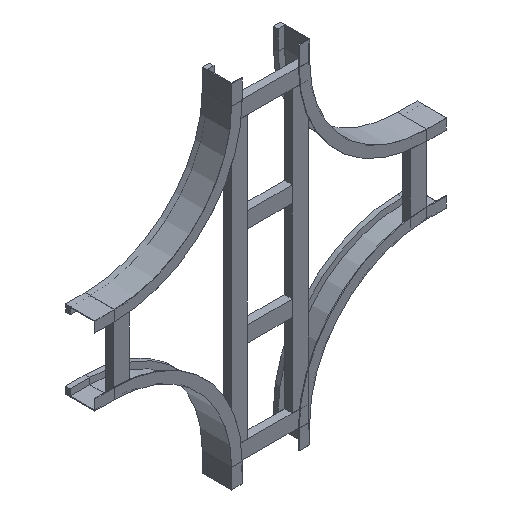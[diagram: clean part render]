
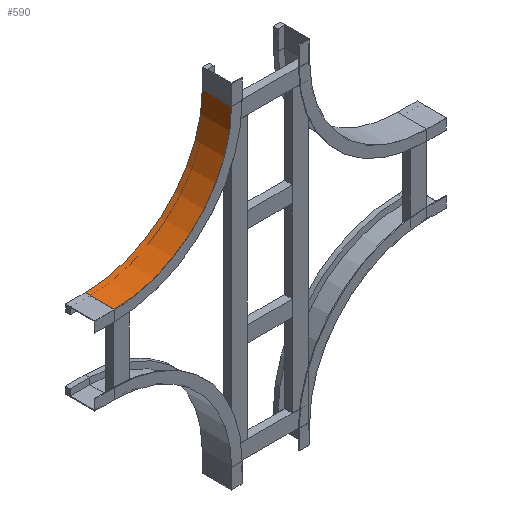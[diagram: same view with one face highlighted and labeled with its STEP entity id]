
A CAD part, isometric view. The second image highlights one B-rep face of the part: STEP entity #590.
In plain terms, the highlighted cylindrical face has radius 300 mm (diameter 600 mm), a partial arc.
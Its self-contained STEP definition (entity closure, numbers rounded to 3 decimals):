
#43 = CARTESIAN_POINT ( 'NONE',  ( 300., 75., -350. ) ) ;
#69 = FACE_OUTER_BOUND ( 'NONE', #221, .T. ) ;
#107 = CARTESIAN_POINT ( 'NONE',  ( 300., 0., -50. ) ) ;
#124 = CARTESIAN_POINT ( 'NONE',  ( 300., 0., -350. ) ) ;
#174 = DIRECTION ( 'NONE',  ( 0., -1., 0. ) ) ;
#183 = ORIENTED_EDGE ( 'NONE', *, *, #570, .F. ) ;
#206 = DIRECTION ( 'NONE',  ( 0., -1., 0. ) ) ;
#221 = EDGE_LOOP ( 'NONE', ( #428, #183, #369, #1307 ) ) ;
#280 = CARTESIAN_POINT ( 'NONE',  ( 300., 0., -50. ) ) ;
#299 = EDGE_CURVE ( 'NONE', #782, #528, #418, .T. ) ;
#309 = CARTESIAN_POINT ( 'NONE',  ( 0., 75., -50. ) ) ;
#361 = EDGE_CURVE ( 'NONE', #1042, #528, #495, .T. ) ;
#369 = ORIENTED_EDGE ( 'NONE', *, *, #399, .T. ) ;
#399 = EDGE_CURVE ( 'NONE', #792, #782, #589, .T. ) ;
#406 = AXIS2_PLACEMENT_3D ( 'NONE', #280, #174, #614 ) ;
#418 = LINE ( 'NONE', #124, #1125 ) ;
#428 = ORIENTED_EDGE ( 'NONE', *, *, #361, .F. ) ;
#495 = CIRCLE ( 'NONE', #1143, 300. ) ;
#498 = CYLINDRICAL_SURFACE ( 'NONE', #406, 300. ) ;
#528 = VERTEX_POINT ( 'NONE', #43 ) ;
#539 = DIRECTION ( 'NONE',  ( 0., -1., 0. ) ) ;
#570 = EDGE_CURVE ( 'NONE', #792, #1042, #1242, .T. ) ;
#589 = CIRCLE ( 'NONE', #1283, 300. ) ;
#590 = ADVANCED_FACE ( 'NONE', ( #69 ), #498, .F. ) ;
#599 = CARTESIAN_POINT ( 'NONE',  ( 0., 0., -50. ) ) ;
#614 = DIRECTION ( 'NONE',  ( 0., 0., -1. ) ) ;
#638 = DIRECTION ( 'NONE',  ( -1., 0., 0. ) ) ;
#747 = CARTESIAN_POINT ( 'NONE',  ( 300., 75., -50. ) ) ;
#782 = VERTEX_POINT ( 'NONE', #1155 ) ;
#792 = VERTEX_POINT ( 'NONE', #599 ) ;
#833 = VECTOR ( 'NONE', #1263, 1000. ) ;
#862 = DIRECTION ( 'NONE',  ( -1., 0., 0. ) ) ;
#933 = CARTESIAN_POINT ( 'NONE',  ( 0., 0., -50. ) ) ;
#1042 = VERTEX_POINT ( 'NONE', #309 ) ;
#1125 = VECTOR ( 'NONE', #1386, 1000. ) ;
#1143 = AXIS2_PLACEMENT_3D ( 'NONE', #747, #206, #638 ) ;
#1155 = CARTESIAN_POINT ( 'NONE',  ( 300., 0., -350. ) ) ;
#1242 = LINE ( 'NONE', #933, #833 ) ;
#1263 = DIRECTION ( 'NONE',  ( 0., 1., 0. ) ) ;
#1283 = AXIS2_PLACEMENT_3D ( 'NONE', #107, #539, #862 ) ;
#1307 = ORIENTED_EDGE ( 'NONE', *, *, #299, .T. ) ;
#1386 = DIRECTION ( 'NONE',  ( 0., 1., 0. ) ) ;
